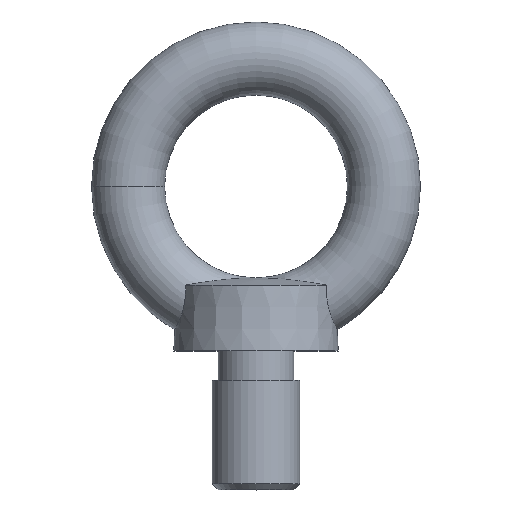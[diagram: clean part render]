
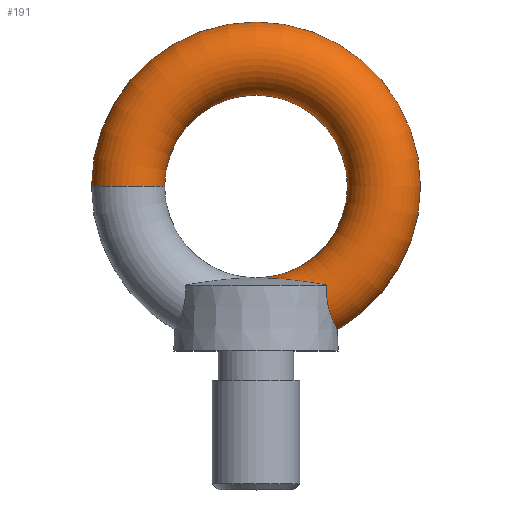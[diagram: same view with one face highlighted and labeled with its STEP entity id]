
A CAD part, top view. The second image highlights one B-rep face of the part: STEP entity #191.
In plain terms, the highlighted toroidal (fillet/blend) face has major radius 35 mm and minor radius 10 mm.
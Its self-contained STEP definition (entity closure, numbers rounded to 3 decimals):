
#15=TOROIDAL_SURFACE('',#235,35.,10.);
#20=B_SPLINE_CURVE_WITH_KNOTS('',3,(#331,#332,#333,#334,#335,#336,#337,
#338,#339,#340),.UNSPECIFIED.,.F.,.F.,(4,2,2,2,4),(0.,0.704,
1.409,1.857,2.062),.UNSPECIFIED.);
#22=B_SPLINE_CURVE_WITH_KNOTS('',3,(#354,#355,#356,#357,#358,#359,#360,
#361,#362,#363),.UNSPECIFIED.,.F.,.F.,(4,2,2,2,4),(5.854,6.059,
6.507,7.211,7.916),.UNSPECIFIED.);
#24=B_SPLINE_CURVE_WITH_KNOTS('',3,(#405,#406,#407,#408,#409,#410,#411,
#412,#413,#414,#415,#416),.UNSPECIFIED.,.F.,.F.,(4,2,2,2,2,4),(-1.853,
-1.588,-1.203,-0.834,-0.453,
0.),.UNSPECIFIED.);
#25=B_SPLINE_CURVE_WITH_KNOTS('',3,(#418,#419,#420,#421,#422,#423,#424,
#425,#426,#427,#428,#429,#430,#431),.UNSPECIFIED.,.F.,.F.,(4,2,2,2,2,2,
4),(-3.704,-3.409,-3.131,-2.761,
-2.372,-1.98,-1.853),.UNSPECIFIED.);
#42=FACE_OUTER_BOUND('',#55,.T.);
#55=EDGE_LOOP('',(#167,#168,#169,#170,#171,#172,#173));
#78=CIRCLE('',#236,10.);
#79=CIRCLE('',#237,25.);
#87=VERTEX_POINT('',#318);
#88=VERTEX_POINT('',#329);
#90=VERTEX_POINT('',#353);
#97=VERTEX_POINT('',#404);
#98=VERTEX_POINT('',#433);
#108=EDGE_CURVE('',#87,#88,#20,.T.);
#110=EDGE_CURVE('',#90,#87,#22,.T.);
#120=EDGE_CURVE('',#97,#90,#24,.T.);
#122=EDGE_CURVE('',#88,#97,#25,.T.);
#123=EDGE_CURVE('',#98,#98,#78,.T.);
#124=EDGE_CURVE('',#98,#87,#79,.T.);
#167=ORIENTED_EDGE('',*,*,#123,.F.);
#168=ORIENTED_EDGE('',*,*,#124,.T.);
#169=ORIENTED_EDGE('',*,*,#108,.T.);
#170=ORIENTED_EDGE('',*,*,#122,.T.);
#171=ORIENTED_EDGE('',*,*,#120,.T.);
#172=ORIENTED_EDGE('',*,*,#110,.T.);
#173=ORIENTED_EDGE('',*,*,#124,.F.);
#191=ADVANCED_FACE('',(#42),#15,.T.);
#235=AXIS2_PLACEMENT_3D('',#432,#290,#291);
#236=AXIS2_PLACEMENT_3D('',#434,#292,#293);
#237=AXIS2_PLACEMENT_3D('',#435,#294,#295);
#290=DIRECTION('center_axis',(0.,0.,1.));
#291=DIRECTION('ref_axis',(1.,0.,0.));
#292=DIRECTION('center_axis',(0.,-1.,0.));
#293=DIRECTION('ref_axis',(-1.,0.,0.));
#294=DIRECTION('center_axis',(0.,0.,-1.));
#295=DIRECTION('ref_axis',(1.,0.,0.));
#318=CARTESIAN_POINT('',(0.,-25.,0.));
#329=CARTESIAN_POINT('',(19.236,-27.,9.828));
#331=CARTESIAN_POINT('Ctrl Pts',(0.,-25.,0.));
#332=CARTESIAN_POINT('Ctrl Pts',(1.898,-25.,1.382));
#333=CARTESIAN_POINT('Ctrl Pts',(3.983,-25.075,2.905));
#334=CARTESIAN_POINT('Ctrl Pts',(8.283,-25.402,5.702));
#335=CARTESIAN_POINT('Ctrl Pts',(10.507,-25.654,6.964));
#336=CARTESIAN_POINT('Ctrl Pts',(14.,-26.135,8.489));
#337=CARTESIAN_POINT('Ctrl Pts',(15.528,-26.369,9.04));
#338=CARTESIAN_POINT('Ctrl Pts',(17.802,-26.749,9.592));
#339=CARTESIAN_POINT('Ctrl Pts',(18.523,-26.873,9.73));
#340=CARTESIAN_POINT('Ctrl Pts',(19.236,-27.,9.828));
#353=CARTESIAN_POINT('',(19.236,-27.,-9.828));
#354=CARTESIAN_POINT('Ctrl Pts',(19.236,-27.,-9.828));
#355=CARTESIAN_POINT('Ctrl Pts',(18.523,-26.873,-9.73));
#356=CARTESIAN_POINT('Ctrl Pts',(17.802,-26.749,-9.592));
#357=CARTESIAN_POINT('Ctrl Pts',(15.528,-26.369,-9.04));
#358=CARTESIAN_POINT('Ctrl Pts',(14.,-26.135,-8.489));
#359=CARTESIAN_POINT('Ctrl Pts',(10.507,-25.654,-6.964));
#360=CARTESIAN_POINT('Ctrl Pts',(8.283,-25.402,-5.702));
#361=CARTESIAN_POINT('Ctrl Pts',(3.983,-25.075,-2.905));
#362=CARTESIAN_POINT('Ctrl Pts',(1.898,-25.,-1.382));
#363=CARTESIAN_POINT('Ctrl Pts',(0.,-25.,0.));
#404=CARTESIAN_POINT('',(22.207,-39.139,0.));
#405=CARTESIAN_POINT('Ctrl Pts',(22.207,-39.139,0.));
#406=CARTESIAN_POINT('Ctrl Pts',(22.207,-39.139,-0.877));
#407=CARTESIAN_POINT('Ctrl Pts',(22.15,-39.039,-1.751));
#408=CARTESIAN_POINT('Ctrl Pts',(21.879,-38.548,-3.832));
#409=CARTESIAN_POINT('Ctrl Pts',(21.61,-38.052,-4.988));
#410=CARTESIAN_POINT('Ctrl Pts',(20.978,-36.69,-6.98));
#411=CARTESIAN_POINT('Ctrl Pts',(20.626,-35.853,-7.808));
#412=CARTESIAN_POINT('Ctrl Pts',(19.973,-33.842,-9.115));
#413=CARTESIAN_POINT('Ctrl Pts',(19.691,-32.701,-9.557));
#414=CARTESIAN_POINT('Ctrl Pts',(19.28,-30.004,-10.075));
#415=CARTESIAN_POINT('Ctrl Pts',(19.204,-28.493,-10.053));
#416=CARTESIAN_POINT('Ctrl Pts',(19.236,-27.,-9.828));
#418=CARTESIAN_POINT('Ctrl Pts',(19.236,-27.,9.828));
#419=CARTESIAN_POINT('Ctrl Pts',(19.215,-27.971,9.974));
#420=CARTESIAN_POINT('Ctrl Pts',(19.239,-28.956,10.035));
#421=CARTESIAN_POINT('Ctrl Pts',(19.4,-30.853,9.929));
#422=CARTESIAN_POINT('Ctrl Pts',(19.53,-31.752,9.777));
#423=CARTESIAN_POINT('Ctrl Pts',(19.948,-33.765,9.143));
#424=CARTESIAN_POINT('Ctrl Pts',(20.263,-34.803,8.584));
#425=CARTESIAN_POINT('Ctrl Pts',(20.951,-36.657,7.034));
#426=CARTESIAN_POINT('Ctrl Pts',(21.31,-37.425,6.05));
#427=CARTESIAN_POINT('Ctrl Pts',(21.882,-38.567,3.796));
#428=CARTESIAN_POINT('Ctrl Pts',(22.088,-38.927,2.549));
#429=CARTESIAN_POINT('Ctrl Pts',(22.194,-39.116,0.839));
#430=CARTESIAN_POINT('Ctrl Pts',(22.207,-39.139,0.419));
#431=CARTESIAN_POINT('Ctrl Pts',(22.207,-39.139,0.));
#432=CARTESIAN_POINT('Origin',(0.,0.,0.));
#433=CARTESIAN_POINT('',(-25.,0.,0.));
#434=CARTESIAN_POINT('Origin',(-35.,0.,0.));
#435=CARTESIAN_POINT('Origin',(0.,0.,0.));
